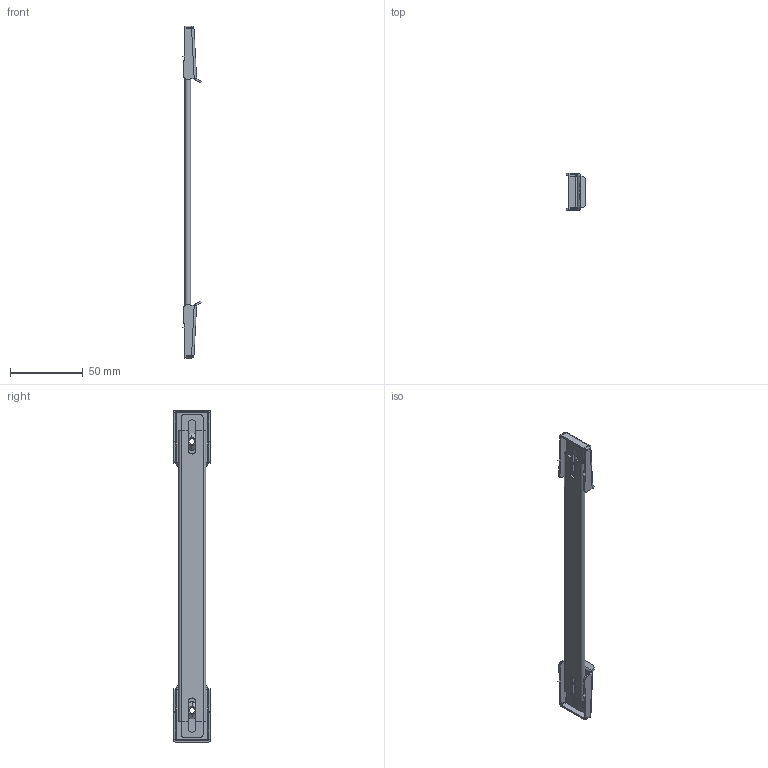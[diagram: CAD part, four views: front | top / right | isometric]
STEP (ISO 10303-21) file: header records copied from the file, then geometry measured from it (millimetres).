
FILE_DESCRIPTION (( 'STEP AP203' ), '1' );
FILE_NAME ('A-97.STEP', '2024-03-15T08:01:59', ( '' ), ( '' ), 'SwSTEP 2.0', 'SolidWorks 2021', '' );
FILE_SCHEMA (( 'CONFIG_CONTROL_DESIGN' ));
Length unit declared in the file: millimetre
Products named in the file (4): A-98-P2; A-97; A-98-P1; A-97-P3.
Assembly tree (4 placements, depth 2):
  A-97
    A-98-P2
    A-98-P1
    A-97-P3.  x2
Bounding box: 13.44 x 25.33 x 228 mm (x, y, z)
Volume: 13587 mm3; surface area: 28327.5 mm2
Topology: 4 solids, 4 shells, 266 faces, 683 edges, 419 vertices
Faces by surface type: plane 154, cylinder 92, cone 8, bspline 8, torus 4
Entity records: 6441 total; most frequent: CARTESIAN_POINT 1313, ORIENTED_EDGE 996, DIRECTION 983, EDGE_CURVE 498, LINE 341, VECTOR 341, AXIS2_PLACEMENT_3D 321, VERTEX_POINT 315
